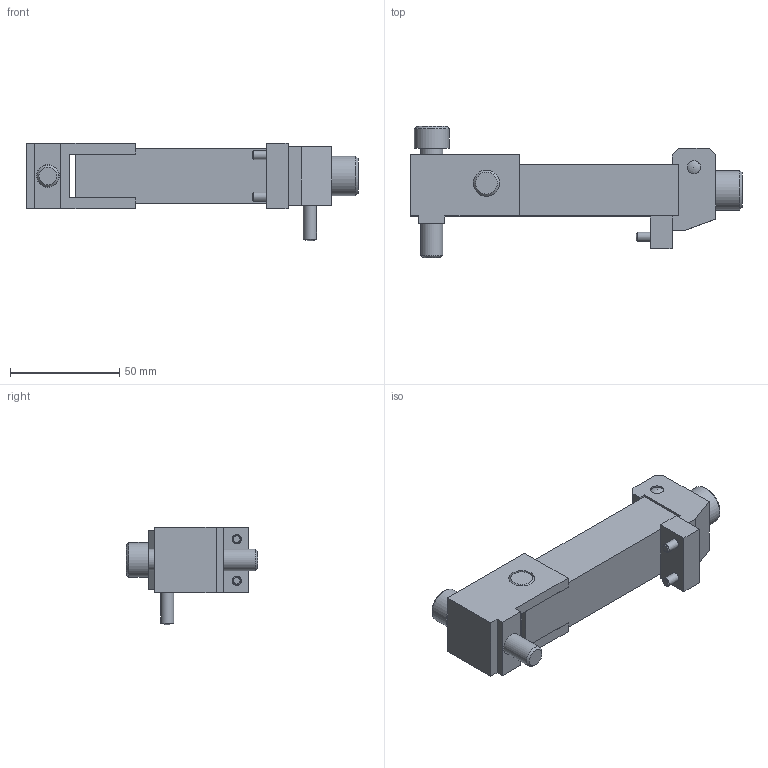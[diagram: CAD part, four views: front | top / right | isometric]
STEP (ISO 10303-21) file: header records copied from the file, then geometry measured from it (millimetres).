
FILE_DESCRIPTION(/* description */ ('STEP AP214'),/* implementation_level */ '2;1');
FILE_NAME(/* name */ 'KL11070',/* time_stamp */ '2024-12-19T07:59:17+01:00',/* author */ ('License CC BY-ND 4.0'),/* organization */ ('CADENAS'),/* preprocessor_version */ 'ST-DEVELOPER v19.3',/* originating_system */ 'PARTsolutions',/* authorisation */ ' ');
FILE_SCHEMA (('AUTOMOTIVE_DESIGN {1 0 10303 214 3 1 1}'));
Length unit declared in the file: millimetre
Products named in the file (11): KL11070; KL110701; KL110702; KL110703; KL110704; KL110705; KL110706; KL110707; KL110708; KL110709; KL1107010
Assembly tree (11 placements, depth 2):
  KL11070
    KL110701
    KL110702
    KL110703
    KL110704
    KL110705
    KL110706
    KL110707
    KL110708
    KL110709  x2
    KL1107010
Bounding box: 152 x 60 x 44.7 mm (x, y, z)
Volume: 107431.5 mm3; surface area: 37694.4 mm2
Topology: 11 solids, 11 shells, 136 faces, 305 edges, 200 vertices
Faces by surface type: plane 96, cylinder 23, cone 15, sphere 2
Full cylindrical faces by diameter (mm): 4 x2, 4.134 x1, 4.3 x2, 5 x1, 6 x2, 7 x2, 8 x2, 10 x1, 10.106 x1, 10.5 x1, 12 x5, 13 x1, 16 x1, 18 x1
Entity records: 3467 total; most frequent: CARTESIAN_POINT 556, DIRECTION 551, ORIENTED_EDGE 462, EDGE_CURVE 231, AXIS2_PLACEMENT_3D 187, FACE_BOUND 184, EDGE_LOOP 183, LINE 177
